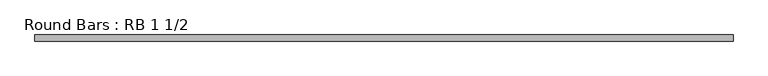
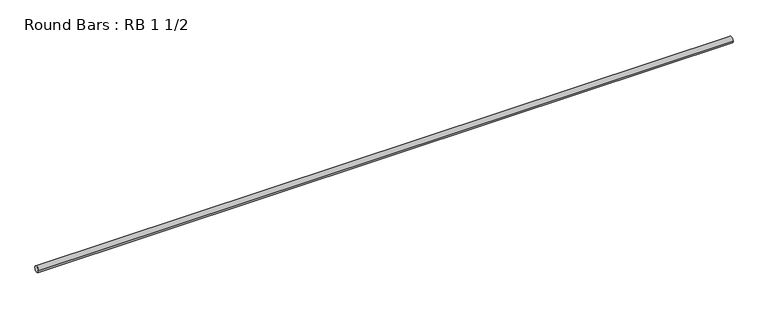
"""IFC4 building model written with IfcOpenShell, lengths in millimetres: member geometry, Round Bars : RB 1 1/2."""

from ifc_helpers import new_model, si_unit, point, frame, origin, origin_2d, place, context, project, spatial, circle_curve, trimmed, segment, composite_curve, outline, extrude, source, transform, mapped, element, save


def round_bars_rb_1_1_2_b532fa77(model_context):
    return source(origin(), model_context, "Body", "SweptSolid", [
        extrude(outline(composite_curve([segment(trimmed(circle_curve(origin_2d(), 19.05), [point((19.05, 0.0))], [point((-19.05, 0.0))], False, "CARTESIAN"), True, "CONTINUOUS"), segment(trimmed(circle_curve(origin_2d(), 19.05), [point((-19.05, 0.0))], [point((19.05, 0.0))], False, "CARTESIAN"), True, "CONTINUOUS")], self_intersect=False)), frame((-2152.2077401, 0.0, 0.0), z_axis=(1.0, 0.0, 0.0), x_axis=(0.0, 1.0, 0.0)), (0.0, 0.0, 1.0), 4304.4154803),
    ])


if __name__ == "__main__":
    model = new_model("IFC4")
    model_context = context("Model", 3, world=origin())
    ifc_project = project(units=[si_unit("LENGTHUNIT", "METRE", prefix="MILLI")], contexts=[model_context])
    site = spatial("IfcSite", under=ifc_project)
    building = spatial("IfcBuilding", under=site)
    placement = place(None, origin())
    round_bars_rb_1_1_2_shape = round_bars_rb_1_1_2_b532fa77(model_context)
    element("IfcMember", 1, ObjectType="Round Bars : RB 1 1/2", at=placement, inside=building, context=model_context, shape_type="MappedRepresentation", body=[
        mapped(round_bars_rb_1_1_2_shape, transform((0.0, 0.0, 0.0), x_axis=(1.0, 0.0, 0.0), y_axis=(0.0, 1.0, 0.0), z_axis=(0.0, 0.0, 1.0))),
    ])
    save(model, "model.ifc")
